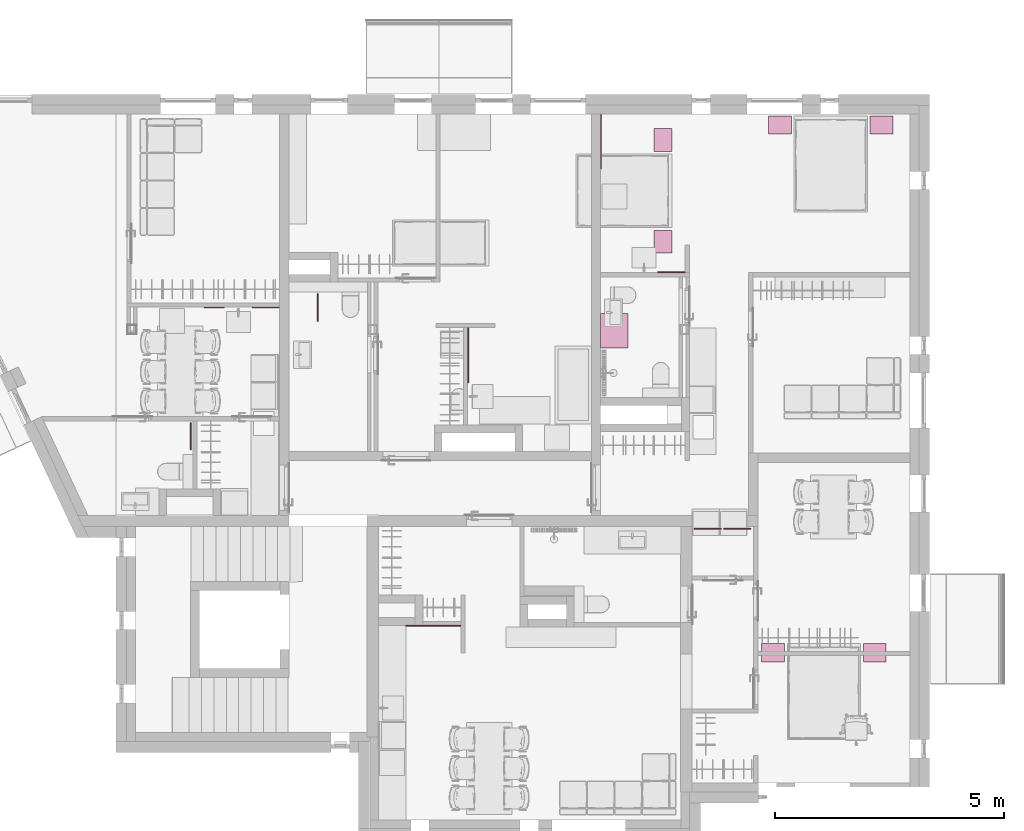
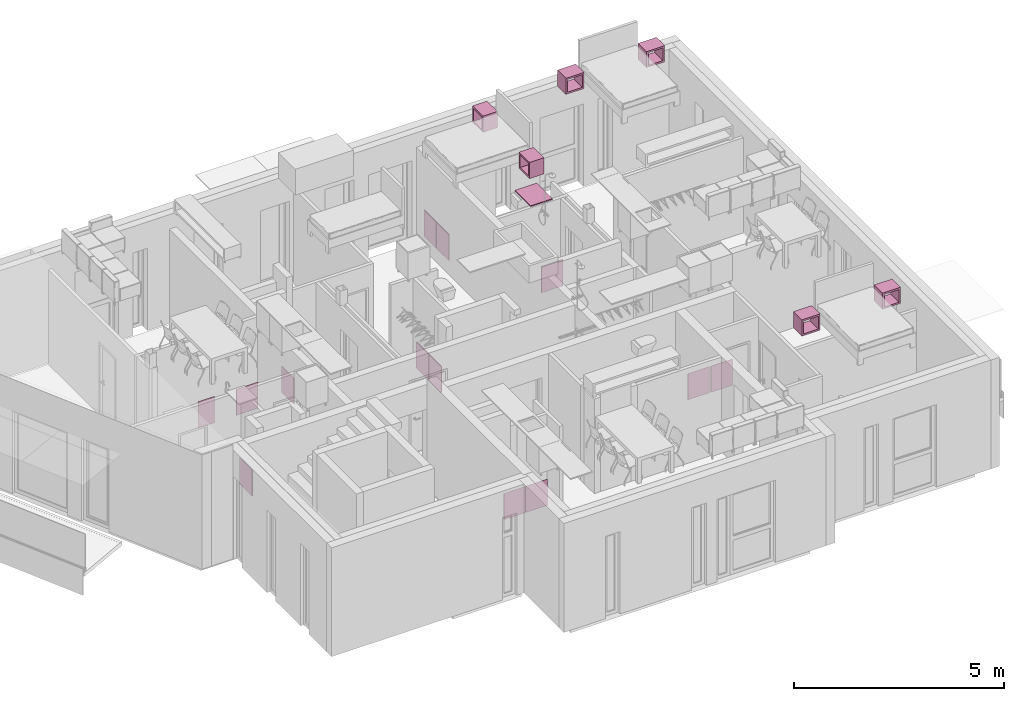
# One storey, part 37 of 68: 20 furnishings.
"""IFC2X3 building model written with IfcOpenShell, lengths in millimetres."""

from ifc_helpers import new_model, entity, si_unit, converted_unit, direction, frame, frame_2d, origin, origin_2d_with_axis, place, context, subcontext, project, spatial, polyline, rectangle, outline, extrude, source, transform, mapped, material, type_object, type_shapes, element, save


model = new_model("IFC2X3")

# Units and contexts
model_context = context("Model", 3, precision=0.01, world=origin(), true_north=direction((6.123233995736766e-17, 1.0)))
plan_context = context("Plan", 3, precision=0.01, world=origin(), true_north=direction((6.123233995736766e-17, 1.0)))
body_context = subcontext(model_context, "Body", "Model", "MODEL_VIEW")
ifc_project = project(units=[si_unit("LENGTHUNIT", "METRE", prefix="MILLI"), converted_unit("PLANEANGLEUNIT", "DEGREE", entity("IfcPlaneAngleMeasure", 0.017453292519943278), si_unit("PLANEANGLEUNIT", "RADIAN"), dimensions=[0, 0, 0, 0, 0, 0, 0]), si_unit("AREAUNIT", "SQUARE_METRE")], contexts=[model_context, plan_context])

# Site, building, storey, space
site_placement = place(None, origin())
site = spatial("IfcSite", under=ifc_project, at=site_placement, Name="Default", CompositionType="ELEMENT")
building_placement = place(site_placement, origin())
building = spatial("IfcBuilding", under=site, at=building_placement, CompositionType="ELEMENT")
storey_placement = place(building_placement, frame((0.0, 0.0, 6295.0)))
storey = spatial("IfcBuildingStorey", under=building, at=storey_placement, Name="3K", CompositionType="ELEMENT", Elevation=6294.999999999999)
space_1_placement = place(storey_placement, origin())
space_1 = spatial("IfcSpace", under=storey, at=space_1_placement, Name="3-7.2", CompositionType="ELEMENT", InteriorOrExteriorSpace="INTERNAL")

# Furnishing
ifc_material = material(Name="<Unnamed>")
furniture_type_1 = type_object("IfcFurnitureType", Name="HR_Furniture_Bedside-table_Generic_v1:Default", AssemblyPlace="NOTDEFINED", material=ifc_material)
shared_shape_1 = source(origin(), body_context, "Body", "SweptSolid", [
    extrude(outline(polyline([(-250.0, -235.0), (250.0, -235.0), (250.0, 235.0), (-250.0, 235.0), (-250.0, -235.0)]), holes=[polyline([(200.0, 185.0), (200.0, -185.0), (-200.0, -185.0), (-200.0, 185.0), (200.0, 185.0)])]), frame((0.0, 0.0, -2860.0), z_axis=(0.0, 1.0, 0.0), x_axis=(-1.0, 0.0, 0.0)), (0.0, 0.0, 1.0), 400.0),
])
type_shapes(furniture_type_1, [shared_shape_1])
furnishing_1_placement = place(space_1_placement, frame((14061.0, 15360.0, 6295.000076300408), z_axis=(0.0, 0.0, 1.0), x_axis=(-1.0, 0.0, 0.0)))
element("IfcFurnishingElement", 1, at=furnishing_1_placement, inside=space_1, type_object=furniture_type_1, material=ifc_material, Name="HR_Furniture_Bedside-table_Generic_v1:Default", ObjectType="HR_Furniture_Bedside-table_Generic_v1:Default", context=body_context, shape_type="MappedRepresentation", body=[
    mapped(shared_shape_1, transform((0.0, 0.0, 0.0), scale=1.0)),
])

# Space
space_2_placement = place(storey_placement, origin())
space_2 = spatial("IfcSpace", under=storey, at=space_2_placement, Name="3-8.4", CompositionType="ELEMENT", InteriorOrExteriorSpace="INTERNAL")

# Furnishings
furnishing_2_placement = place(space_2_placement, frame((13912.496767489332, 3848.0, 6295.000076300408), z_axis=(0.0, 0.0, 1.0), x_axis=(-1.0, 0.0, 0.0)))
element("IfcFurnishingElement", 2, at=furnishing_2_placement, inside=space_2, type_object=furniture_type_1, material=ifc_material, Name="HR_Furniture_Bedside-table_Generic_v1:Default", ObjectType="HR_Furniture_Bedside-table_Generic_v1:Default", context=body_context, shape_type="MappedRepresentation", body=[
    mapped(shared_shape_1, transform((0.0, 0.0, 0.0), scale=1.0)),
])
furnishing_3_placement = place(space_1_placement, frame((11710.0, 14833.0, 6295.000076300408), z_axis=(0.0, 0.0, 1.0), x_axis=(0.0, 1.0, 0.0)))
element("IfcFurnishingElement", 3, at=furnishing_3_placement, inside=space_1, type_object=furniture_type_1, material=ifc_material, Name="HR_Furniture_Bedside-table_Generic_v1:Default", ObjectType="HR_Furniture_Bedside-table_Generic_v1:Default", context=body_context, shape_type="MappedRepresentation", body=[
    mapped(shared_shape_1, transform((0.0, 0.0, 0.0), scale=1.0)),
])
furniture_type_2 = type_object("IfcFurnitureType", Name="HR_Furniture_Bedside-table_Generic_v1:Default", AssemblyPlace="NOTDEFINED", material=ifc_material)
shared_shape_2 = source(origin(), body_context, "Body", "SweptSolid", [
    extrude(outline(polyline([(-250.0, -235.0), (250.0, -235.0), (250.0, 235.0), (-250.0, 235.0), (-250.0, -235.0)]), holes=[polyline([(200.0, 185.0), (200.0, -185.0), (-200.0, -185.0), (-200.0, 185.0), (200.0, 185.0)])]), frame((0.0, -400.0, -2860.0), z_axis=(0.0, 1.0, 0.0), x_axis=(-1.0, 0.0, 0.0)), (0.0, 0.0, 1.0), 400.0),
])
type_shapes(furniture_type_2, [shared_shape_2])
furnishing_4_placement = place(space_1_placement, frame((16281.0, 15360.0, 6295.000076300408)))
element("IfcFurnishingElement", 4, at=furnishing_4_placement, inside=space_1, type_object=furniture_type_2, material=ifc_material, Name="HR_Furniture_Bedside-table_Generic_v1:Default", ObjectType="HR_Furniture_Bedside-table_Generic_v1:Default", context=body_context, shape_type="MappedRepresentation", body=[
    mapped(shared_shape_2, transform((0.0, 0.0, 0.0), scale=1.0)),
])
furnishing_5_placement = place(space_2_placement, frame((16132.496767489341, 3848.0, 6295.000076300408)))
element("IfcFurnishingElement", 5, at=furnishing_5_placement, inside=space_2, type_object=furniture_type_2, material=ifc_material, Name="HR_Furniture_Bedside-table_Generic_v1:Default", ObjectType="HR_Furniture_Bedside-table_Generic_v1:Default", context=body_context, shape_type="MappedRepresentation", body=[
    mapped(shared_shape_2, transform((0.0, 0.0, 0.0), scale=1.0)),
])
furnishing_6_placement = place(space_1_placement, frame((11710.0, 12613.0, 6295.000076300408), z_axis=(0.0, 0.0, 1.0), x_axis=(0.0, -1.0, 0.0)))
element("IfcFurnishingElement", 6, at=furnishing_6_placement, inside=space_1, type_object=furniture_type_2, material=ifc_material, Name="HR_Furniture_Bedside-table_Generic_v1:Default", ObjectType="HR_Furniture_Bedside-table_Generic_v1:Default", context=body_context, shape_type="MappedRepresentation", body=[
    mapped(shared_shape_2, transform((0.0, 0.0, 0.0), scale=1.0)),
])

# Space
space_3_placement = place(storey_placement, origin())
space_3 = spatial("IfcSpace", under=storey, at=space_3_placement, Name="3-5.2", CompositionType="ELEMENT", InteriorOrExteriorSpace="INTERNAL")

# Furnishing
furniture_type_3 = type_object("IfcFurnitureType", Name="HR_Casework-components_Front-panel_Generic_v1_1x:Default", AssemblyPlace="NOTDEFINED", material=ifc_material)
shared_shape_3 = source(origin(), body_context, "Body", "SweptSolid", [
    extrude(outline(polyline([(-7.0, -9.500000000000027), (15.0, -9.500000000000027), (15.0, -8.499999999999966), (-6.0, -8.499999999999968), (-6.0, 8.499999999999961), (-2.0, 8.499999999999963), (-2.0, 9.500000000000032), (-7.0, 9.500000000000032), (-7.0, -9.500000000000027)])), frame((-297.0, 367.0, 9.499999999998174), z_axis=(1.0, 0.0, 0.0), x_axis=(0.0, 1.0, 0.0)), (0.0, 0.0, 1.0), 593.9999999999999),
    extrude(rectangle(XDim=594.0, YDim=745.0000000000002, at=origin_2d_with_axis()), frame((0.0, -12.500000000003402, 0.0), z_axis=(0.0, 0.0, 1.0), x_axis=(-1.0, 0.0, 0.0)), (0.0, 0.0, 1.0), 19.00000000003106),
])
type_shapes(furniture_type_3, [shared_shape_3])
furnishing_7_placement = place(space_3_placement, frame((2844.9935349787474, 11168.0, 485.0), z_axis=(0.0, 1.0, 0.0), x_axis=(-1.0, 0.0, 0.0)))
element("IfcFurnishingElement", 7, at=furnishing_7_placement, inside=space_3, type_object=furniture_type_3, material=ifc_material, Name="HR_Casework-components_Front-panel_Generic_v1_1x:Default", ObjectType="HR_Casework-components_Front-panel_Generic_v1_1x:Default", context=body_context, shape_type="MappedRepresentation", body=[
    mapped(shared_shape_3, transform((0.0, 0.0, 0.0), scale=1.0)),
])

# Space
space_4_placement = place(storey_placement, origin())
space_4 = spatial("IfcSpace", under=storey, at=space_4_placement, Name="3-5.4", CompositionType="ELEMENT", InteriorOrExteriorSpace="INTERNAL")

# Furnishing
furnishing_8_placement = place(space_4_placement, frame((1193.9935349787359, 8366.0, 485.0), z_axis=(1.0, 0.0, 0.0), x_axis=(0.0, 1.0, 0.0)))
element("IfcFurnishingElement", 8, at=furnishing_8_placement, inside=space_4, type_object=furniture_type_3, material=ifc_material, Name="HR_Casework-components_Front-panel_Generic_v1_1x:Default", ObjectType="HR_Casework-components_Front-panel_Generic_v1_1x:Default", context=body_context, shape_type="MappedRepresentation", body=[
    mapped(shared_shape_3, transform((0.0, 0.0, 0.0), scale=1.0)),
])

# Space
space_5_placement = place(storey_placement, origin())
space_5 = spatial("IfcSpace", under=storey, at=space_5_placement, Name="3-6.4", CompositionType="ELEMENT", InteriorOrExteriorSpace="INTERNAL")

# Furnishing
furnishing_9_placement = place(space_5_placement, frame((3965.993534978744, 11177.0, 485.0), z_axis=(1.0, 0.0, 0.0), x_axis=(0.0, 1.0, 0.0)))
element("IfcFurnishingElement", 9, at=furnishing_9_placement, inside=space_5, type_object=furniture_type_3, material=ifc_material, Name="HR_Casework-components_Front-panel_Generic_v1_1x:Default", ObjectType="HR_Casework-components_Front-panel_Generic_v1_1x:Default", context=body_context, shape_type="MappedRepresentation", body=[
    mapped(shared_shape_3, transform((0.0, 0.0, 0.0), scale=1.0)),
])

# Space
space_6_placement = place(storey_placement, origin())
space_6 = spatial("IfcSpace", under=storey, at=space_6_placement, Name="3-8.7", CompositionType="ELEMENT", InteriorOrExteriorSpace="INTERNAL")

# Furnishings
for number, where, z_axis, x_axis in (
    (10, (12489.993534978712, 6340.999959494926, 485.0), (0.0, 1.0, 0.0), (-1.0, 0.0, 0.0)),
    (11, (13129.99353497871, 6340.999959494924, 485.0), (0.0, 1.0, 0.0), (-1.0, 0.0, 0.0)),
):
    element("IfcFurnishingElement", number, at=place(space_6_placement, frame(where, z_axis=z_axis, x_axis=x_axis)), inside=space_6, type_object=furniture_type_3, material=ifc_material, Name="HR_Casework-components_Front-panel_Generic_v1_1x:Default", ObjectType="HR_Casework-components_Front-panel_Generic_v1_1x:Default", context=body_context, shape_type="MappedRepresentation", body=[
        mapped(shared_shape_3, transform((0.0, 0.0, 0.0), scale=1.0)),
    ])

# Space
space_7_placement = place(storey_placement, origin())
space_7 = spatial("IfcSpace", under=storey, at=space_7_placement, Name="3-8.2", CompositionType="ELEMENT", InteriorOrExteriorSpace="INTERNAL")

# Furnishings
for number, where, z_axis, x_axis in (
    (12, (6200.0, 4221.0, 485.0), (0.0, 1.0, 0.0), (-1.0, 0.0, 0.0)),
    (13, (6800.0, 4221.0, 485.0), (0.0, 1.0, 0.0), (-1.0, 0.0, 0.0)),
):
    element("IfcFurnishingElement", number, at=place(space_7_placement, frame(where, z_axis=z_axis, x_axis=x_axis)), inside=space_7, type_object=furniture_type_3, material=ifc_material, Name="HR_Casework-components_Front-panel_Generic_v1_1x:Default", ObjectType="HR_Casework-components_Front-panel_Generic_v1_1x:Default", context=body_context, shape_type="MappedRepresentation", body=[
        mapped(shared_shape_3, transform((0.0, 0.0, 0.0), scale=1.0)),
    ])

# Space
space_8_placement = place(storey_placement, origin())
space_8 = spatial("IfcSpace", under=storey, at=space_8_placement, Name="3-6.2", CompositionType="ELEMENT", InteriorOrExteriorSpace="INTERNAL")

# Furnishings
for number, where, z_axis, x_axis in (
    (14, (7269.0, 10438.0, 485.0), (-1.0, 0.0, 0.0), (0.0, -1.0, 0.0)),
    (15, (7269.0, 9838.0, 485.0), (-1.0, 0.0, 0.0), (0.0, -1.0, 0.0)),
):
    element("IfcFurnishingElement", number, at=place(space_8_placement, frame(where, z_axis=z_axis, x_axis=x_axis)), inside=space_8, type_object=furniture_type_3, material=ifc_material, Name="HR_Casework-components_Front-panel_Generic_v1_1x:Default", ObjectType="HR_Casework-components_Front-panel_Generic_v1_1x:Default", context=body_context, shape_type="MappedRepresentation", body=[
        mapped(shared_shape_3, transform((0.0, 0.0, 0.0), scale=1.0)),
    ])
for number, where, z_axis, x_axis in (
    (16, (10169.0, 15100.0, 485.0), (-1.0, 0.0, 0.0), (0.0, -1.0, 0.0)),
    (17, (11696.0, 11959.0, 485.0), (0.0, -1.0, 0.0), (1.0, 0.0, 0.0)),
    (18, (10169.0, 14500.0, 485.0), (-1.0, 0.0, 0.0), (0.0, -1.0, 0.0)),
):
    element("IfcFurnishingElement", number, at=place(space_1_placement, frame(where, z_axis=z_axis, x_axis=x_axis)), inside=space_1, type_object=furniture_type_3, material=ifc_material, Name="HR_Casework-components_Front-panel_Generic_v1_1x:Default", ObjectType="HR_Casework-components_Front-panel_Generic_v1_1x:Default", context=body_context, shape_type="MappedRepresentation", body=[
        mapped(shared_shape_3, transform((0.0, 0.0, 0.0), scale=1.0)),
    ])
furniture_type_4 = type_object("IfcFurnitureType", Name="HR_Casework-components_Front-panel_Generic_v1_1x:Default", AssemblyPlace="NOTDEFINED", material=ifc_material)
shared_shape_4 = source(origin(), body_context, "Body", "SweptSolid", [
    extrude(outline(polyline([(-7.0, -9.500000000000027), (15.0, -9.500000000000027), (15.0, -8.499999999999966), (-6.0, -8.499999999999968), (-6.0, 8.499999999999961), (-2.0, 8.499999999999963), (-2.0, 9.500000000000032), (-7.0, 9.500000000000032), (-7.0, -9.500000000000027)])), frame((-222.0, 367.0, 9.499999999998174), z_axis=(1.0, 0.0, 0.0), x_axis=(0.0, 1.0, 0.0)), (0.0, 0.0, 1.0), 444.0),
    extrude(rectangle(XDim=444.0, YDim=745.0000000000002, at=origin_2d_with_axis()), frame((0.0, -12.500000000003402, 0.0), z_axis=(0.0, 0.0, 1.0), x_axis=(-1.0, 0.0, 0.0)), (0.0, 0.0, 1.0), 19.00000000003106),
])
type_shapes(furniture_type_4, [shared_shape_4])
furnishing_10_placement = place(space_3_placement, frame((1719.9935349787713, 11168.0, 485.0), z_axis=(0.0, 1.0, 0.0), x_axis=(-1.0, 0.0, 0.0)))
element("IfcFurnishingElement", 19, at=furnishing_10_placement, inside=space_3, type_object=furniture_type_4, material=ifc_material, Name="HR_Casework-components_Front-panel_Generic_v1_1x:Default", ObjectType="HR_Casework-components_Front-panel_Generic_v1_1x:Default", context=body_context, shape_type="MappedRepresentation", body=[
    mapped(shared_shape_4, transform((0.0, 0.0, 0.0), scale=1.0)),
])

# Space
space_9_placement = place(storey_placement, origin())
space_9 = spatial("IfcSpace", under=storey, at=space_9_placement, Name="3-7.4", CompositionType="ELEMENT", InteriorOrExteriorSpace="INTERNAL")

# Furnishing
furniture_type_5 = type_object("IfcFurnitureType", Name="HR_Casework_Work-surface_Generic_Rectangular_v1:Default", AssemblyPlace="NOTDEFINED", material=ifc_material)
shared_shape_5 = source(origin(), body_context, "Body", "SweptSolid", [
    extrude(rectangle(XDim=751.802222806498, YDim=600.0, at=frame_2d((1.0800249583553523e-12, -1.0800249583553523e-12), x_axis=(1.0, 0.0))), frame((10450.0, 10670.098888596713, 870.0), z_axis=(0.0, 0.0, 1.0), x_axis=(0.0, 1.0, 0.0)), (0.0, 0.0, 1.0), 29.99999999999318),
])
type_shapes(furniture_type_5, [shared_shape_5])
furnishing_11_placement = place(space_9_placement, frame((0.0, 0.0, 3170.000076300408)))
element("IfcFurnishingElement", 20, at=furnishing_11_placement, inside=space_9, type_object=furniture_type_5, material=ifc_material, Name="HR_Casework_Work-surface_Generic_Rectangular_v1:Default", ObjectType="HR_Casework_Work-surface_Generic_Rectangular_v1:Default", context=body_context, shape_type="MappedRepresentation", body=[
    mapped(shared_shape_5, transform((0.0, 0.0, 0.0), scale=1.0)),
])

save(model, "model.ifc")
